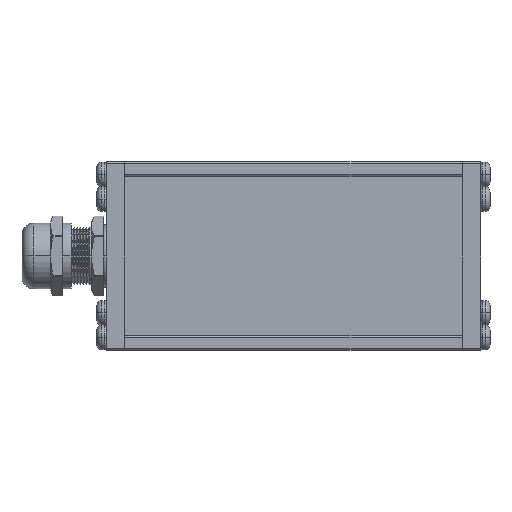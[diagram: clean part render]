
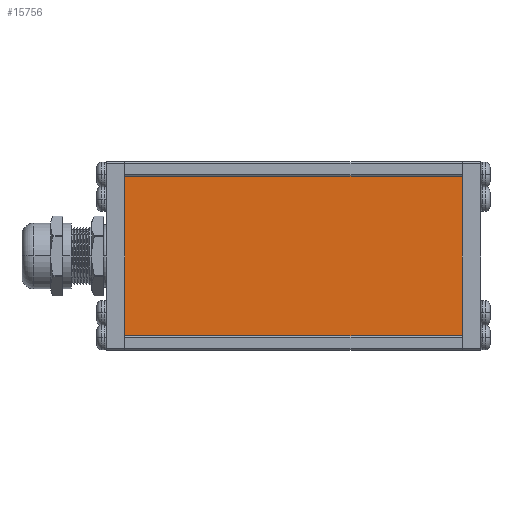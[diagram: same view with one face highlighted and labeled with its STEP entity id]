
A CAD part, front view. The second image highlights one B-rep face of the part: STEP entity #15756.
In plain terms, the highlighted planar face has unit normal (0, -1, 0) as drawn and (0, 1, 0) by its records, which use the part's own axes.
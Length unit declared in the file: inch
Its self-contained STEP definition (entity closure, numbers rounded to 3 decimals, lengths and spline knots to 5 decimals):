
#1186 = ORIENTED_EDGE ( 'NONE', *, *, #18716, .T. ) ;
#2632 = CARTESIAN_POINT ( 'NONE',  ( -1.135, 0.03, -0.586 ) ) ;
#3184 = VERTEX_POINT ( 'NONE', #4180 ) ;
#3226 = LINE ( 'NONE', #2632, #27500 ) ;
#3417 = EDGE_CURVE ( 'NONE', #27739, #7467, #12615, .T. ) ;
#4180 = CARTESIAN_POINT ( 'NONE',  ( -1.135, 0.03, 0.586 ) ) ;
#5752 = EDGE_CURVE ( 'NONE', #17387, #27739, #24980, .T. ) ;
#6713 = ORIENTED_EDGE ( 'NONE', *, *, #3417, .T. ) ;
#7467 = VERTEX_POINT ( 'NONE', #21995 ) ;
#8574 = DIRECTION ( 'NONE',  ( -1., 0., 0. ) ) ;
#8954 = DIRECTION ( 'NONE',  ( 0., 0., -1. ) ) ;
#10475 = VECTOR ( 'NONE', #8954, 39.37008 ) ;
#11197 = DIRECTION ( 'NONE',  ( 1., 0., 0. ) ) ;
#11211 = PLANE ( 'NONE',  #31525 ) ;
#12615 = LINE ( 'NONE', #30952, #19662 ) ;
#13425 = EDGE_CURVE ( 'NONE', #3184, #17387, #17428, .T. ) ;
#14121 = CARTESIAN_POINT ( 'NONE',  ( 1.135, 0.03, -0.586 ) ) ;
#15756 = ADVANCED_FACE ( 'NONE', ( #21383 ), #11211, .T. ) ;
#16650 = VECTOR ( 'NONE', #11197, 39.37008 ) ;
#17387 = VERTEX_POINT ( 'NONE', #18311 ) ;
#17428 = LINE ( 'NONE', #26432, #16650 ) ;
#17975 = EDGE_LOOP ( 'NONE', ( #1186, #18537, #22356, #6713 ) ) ;
#18311 = CARTESIAN_POINT ( 'NONE',  ( 1.135, 0.03, 0.586 ) ) ;
#18537 = ORIENTED_EDGE ( 'NONE', *, *, #13425, .T. ) ;
#18716 = EDGE_CURVE ( 'NONE', #7467, #3184, #3226, .T. ) ;
#19662 = VECTOR ( 'NONE', #8574, 39.37008 ) ;
#21383 = FACE_OUTER_BOUND ( 'NONE', #17975, .T. ) ;
#21995 = CARTESIAN_POINT ( 'NONE',  ( -1.135, 0.03, -0.586 ) ) ;
#22356 = ORIENTED_EDGE ( 'NONE', *, *, #5752, .T. ) ;
#23091 = DIRECTION ( 'NONE',  ( 0., 0., 1. ) ) ;
#24980 = LINE ( 'NONE', #14121, #10475 ) ;
#26432 = CARTESIAN_POINT ( 'NONE',  ( -1.135, 0.03, 0.586 ) ) ;
#27034 = CARTESIAN_POINT ( 'NONE',  ( 1.135, 0.03, -0.586 ) ) ;
#27500 = VECTOR ( 'NONE', #23091, 39.37008 ) ;
#27739 = VERTEX_POINT ( 'NONE', #27034 ) ;
#28746 = DIRECTION ( 'NONE',  ( 0., 1., 0. ) ) ;
#30952 = CARTESIAN_POINT ( 'NONE',  ( -1.135, 0.03, -0.586 ) ) ;
#31270 = CARTESIAN_POINT ( 'NONE',  ( -1.135, 0.03, 0.586 ) ) ;
#31494 = DIRECTION ( 'NONE',  ( 0., 0., 1. ) ) ;
#31525 = AXIS2_PLACEMENT_3D ( 'NONE', #31270, #28746, #31494 ) ;
